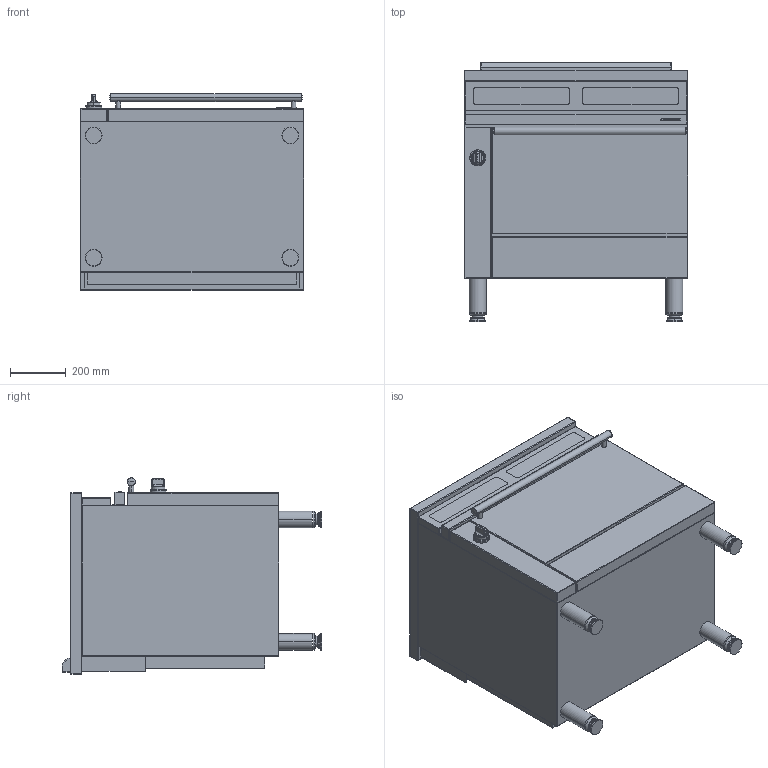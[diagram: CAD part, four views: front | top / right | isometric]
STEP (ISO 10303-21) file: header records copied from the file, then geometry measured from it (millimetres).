
FILE_DESCRIPTION((''),'2;1');
FILE_NAME('CE831IX_EXPORT_STEP_ASM','2019-03-27T12:34:31',('r.avril'),(''),'CREO PARAMETRIC BY PTC INC, 2017260','CREO PARAMETRIC BY PTC INC, 2017260','');
FILE_SCHEMA(('AP203_CONFIGURATION_CONTROLLED_3D_DESIGN_OF_MECHANICAL_PARTS_AND_ASSEMBLIES_MIM_LF { 1 0 10303 403 2 1 2 }'));
Length unit declared in the file: millimetre
Products named in the file (7): CE831-841IX_EXPORT_STEP; TABLE_831_IX; 65052014; 65052008; TABLE_831_IX_ASM; MANETTE_AMB_EXPORT_STEP; CE831IX_EXPORT_STEP_ASM
Assembly tree (6 placements, depth 3):
  CE831IX_EXPORT_STEP_ASM
    CE831-841IX_EXPORT_STEP
    TABLE_831_IX_ASM
      TABLE_831_IX
      65052014
      65052008
    MANETTE_AMB_EXPORT_STEP
Bounding box: 800 x 930 x 703 mm (x, y, z)
Volume: 371508656.7 mm3; surface area: 6578056.8 mm2
Topology: 17 solids, 37 shells, 420 faces, 1295 edges, 939 vertices
Faces by surface type: plane 151, cylinder 149, sphere 54, torus 32, cone 22, bspline 12
Entity records: 19370 total; most frequent: CARTESIAN_POINT 4293, DIRECTION 2396, ORIENTED_EDGE 2112, EDGE_CURVE 1289, VERTEX_POINT 939, AXIS2_PLACEMENT_3D 853, VECTOR 670, LINE 670
